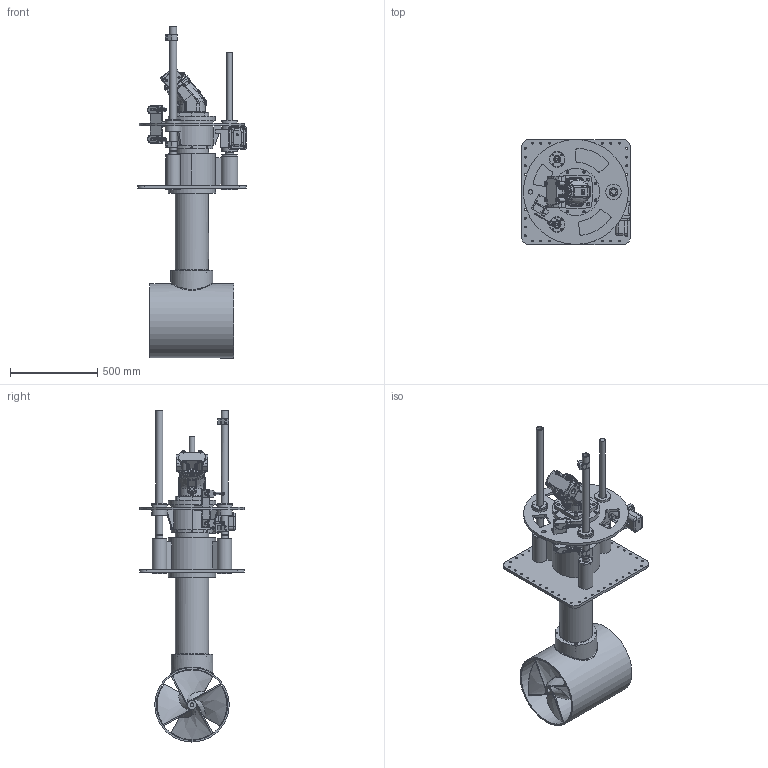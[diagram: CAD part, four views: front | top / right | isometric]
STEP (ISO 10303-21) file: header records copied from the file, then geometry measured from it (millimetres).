
FILE_DESCRIPTION(/* description */ (''),/* implementation_level */ '2;1');
FILE_NAME(/* name */ 'Q:\THRUSTERS\THRUSTER SALES & SUPPORT DOCS\THRUSTER Sales\H-V\H-0400-V\H-0400-V-DEPLOYED.stp',/* time_stamp */ '2020-03-05T11:12:58+00:00',/* author */ ('charlotte.richardson'),/* organization */ (''),/* preprocessor_version */ 'ST-DEVELOPER v17',/* originating_system */ 'Autodesk Inventor 2019',/* authorisation */ '');
FILE_SCHEMA (('AUTOMOTIVE_DESIGN { 1 0 10303 214 3 1 1 }'));
Length unit declared in the file: millimetre
Products named in the file (1): H-0400-V_Shrinkwrap_1
Bounding box: 621 x 600 x 1898.03 mm (x, y, z)
Volume: 52133946.5 mm3; surface area: 6184067.1 mm2
Topology: 5 solids, 5 shells, 2380 faces, 6019 edges, 3922 vertices
Faces by surface type: cylinder 847, plane 805, bspline 393, cone 228, torus 77, sphere 30
Full cylindrical faces by diameter (mm): 3 x6, 5.1 x12, 5.134 x8, 5.2 x6, 5.5 x24, 6.2 x8, 6.5 x18, 6.647 x4, 6.76 x16, 6.8 x12, 7.2 x2, 8 x2, 8.3 x28, 8.38 x4, 8.5 x42, 9 x20, 10.3 x4, 11 x60, 11.8 x1, 12 x15, 13 x6, 14 x36, 14.5 x1, 14.95 x2, 15 x1, 16 x4, 16.5 x5, 17 x9, 17.5 x6, 18 x6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
Entity records: 112935 total; most frequent: CARTESIAN_POINT 53864, ORIENTED_EDGE 11876, DIRECTION 11629, EDGE_CURVE 5938, AXIS2_PLACEMENT_3D 4749, VERTEX_POINT 3920, EDGE_LOOP 2967, CIRCLE 2719
